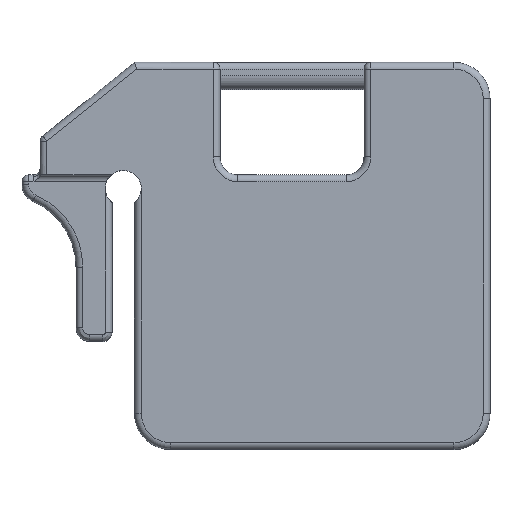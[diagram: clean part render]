
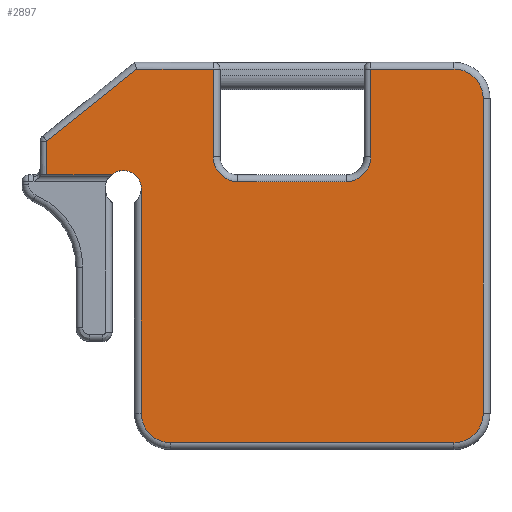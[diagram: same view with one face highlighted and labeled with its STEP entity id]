
A CAD part, top view. The second image highlights one B-rep face of the part: STEP entity #2897.
In plain terms, the highlighted planar face has unit normal (0, 0, 1).
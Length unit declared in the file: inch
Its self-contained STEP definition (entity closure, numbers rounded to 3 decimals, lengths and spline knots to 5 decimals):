
#414=CARTESIAN_POINT('',(3.3125,-3.5,1.375));
#1028=DIRECTION('',(0.,-1.,0.));
#1029=VECTOR('',#1028,0.93194);
#1030=CARTESIAN_POINT('',(0.6875,-2.19306,1.375));
#1031=LINE('',#1030,#1029);
#1032=DIRECTION('',(-0.78,-0.625,0.));
#1033=VECTOR('',#1032,3.20765);
#1034=CARTESIAN_POINT('',(3.19085,-0.1875,1.375));
#1035=LINE('',#1034,#1033);
#1036=DIRECTION('',(-1.,0.,0.));
#1037=VECTOR('',#1036,2.12165);
#1038=CARTESIAN_POINT('',(5.3125,-0.1875,1.375));
#1039=LINE('',#1038,#1037);
#1040=DIRECTION('',(0.,1.,0.));
#1041=VECTOR('',#1040,2.4375);
#1042=CARTESIAN_POINT('',(5.3125,-2.625,1.375));
#1043=LINE('',#1042,#1041);
#1044=CARTESIAN_POINT('',(6.,-2.625,1.375));
#1045=DIRECTION('',(0.,0.,-1.));
#1046=DIRECTION('',(0.,-1.,0.));
#1047=AXIS2_PLACEMENT_3D('',#1044,#1045,#1046);
#1049=DIRECTION('',(-1.,0.,0.));
#1050=VECTOR('',#1049,3.);
#1051=CARTESIAN_POINT('',(9.,-3.3125,1.375));
#1052=LINE('',#1051,#1050);
#1053=CARTESIAN_POINT('',(9.,-2.625,1.375));
#1054=DIRECTION('',(0.,0.,-1.));
#1055=DIRECTION('',(1.,0.,0.));
#1056=AXIS2_PLACEMENT_3D('',#1053,#1054,#1055);
#1058=DIRECTION('',(0.,-1.,0.));
#1059=VECTOR('',#1058,2.4375);
#1060=CARTESIAN_POINT('',(9.6875,-0.1875,1.375));
#1061=LINE('',#1060,#1059);
#1062=DIRECTION('',(-1.,0.,0.));
#1063=VECTOR('',#1062,2.3125);
#1064=CARTESIAN_POINT('',(12.,-0.1875,1.375));
#1065=LINE('',#1064,#1063);
#1066=CARTESIAN_POINT('',(12.,-1.,1.375));
#1067=DIRECTION('',(0.,0.,1.));
#1068=DIRECTION('',(1.,0.,0.));
#1069=AXIS2_PLACEMENT_3D('',#1066,#1067,#1068);
#1071=DIRECTION('',(0.,1.,0.));
#1072=VECTOR('',#1071,8.75);
#1073=CARTESIAN_POINT('',(12.8125,-9.75,1.375));
#1074=LINE('',#1073,#1072);
#1075=CARTESIAN_POINT('',(12.,-9.75,1.375));
#1076=DIRECTION('',(0.,0.,1.));
#1077=DIRECTION('',(0.,-1.,0.));
#1078=AXIS2_PLACEMENT_3D('',#1075,#1076,#1077);
#1080=DIRECTION('',(1.,0.,0.));
#1081=VECTOR('',#1080,7.875);
#1082=CARTESIAN_POINT('',(4.125,-10.5625,1.375));
#1083=LINE('',#1082,#1081);
#1084=CARTESIAN_POINT('',(4.125,-9.75,1.375));
#1085=DIRECTION('',(0.,0.,1.));
#1086=DIRECTION('',(-1.,0.,0.));
#1087=AXIS2_PLACEMENT_3D('',#1084,#1085,#1086);
#1089=DIRECTION('',(0.,-1.,0.));
#1090=VECTOR('',#1089,6.25);
#1091=CARTESIAN_POINT('',(3.3125,-3.5,1.375));
#1092=LINE('',#1091,#1090);
#1093=CARTESIAN_POINT('',(2.8125,-3.5,1.375));
#1094=DIRECTION('',(0.,0.,-1.));
#1095=DIRECTION('',(-0.661,0.75,0.));
#1096=AXIS2_PLACEMENT_3D('',#1093,#1094,#1095);
#1098=DIRECTION('',(1.,0.,0.));
#1099=VECTOR('',#1098,1.79428);
#1100=CARTESIAN_POINT('',(0.6875,-3.125,1.375));
#1101=LINE('',#1100,#1099);
#1573=VERTEX_POINT('',#414);
#1574=CARTESIAN_POINT('',(3.3125,-9.75,1.375));
#1575=VERTEX_POINT('',#1574);
#1578=CARTESIAN_POINT('',(4.125,-10.5625,1.375));
#1579=VERTEX_POINT('',#1578);
#1582=CARTESIAN_POINT('',(12.,-10.5625,1.375));
#1583=VERTEX_POINT('',#1582);
#1586=CARTESIAN_POINT('',(12.8125,-9.75,1.375));
#1587=VERTEX_POINT('',#1586);
#1590=CARTESIAN_POINT('',(12.8125,-1.,1.375));
#1591=VERTEX_POINT('',#1590);
#1594=CARTESIAN_POINT('',(12.,-0.1875,1.375));
#1595=VERTEX_POINT('',#1594);
#1600=CARTESIAN_POINT('',(9.6875,-0.1875,1.375));
#1601=VERTEX_POINT('',#1600);
#1618=CARTESIAN_POINT('',(5.3125,-2.625,1.375));
#1619=CARTESIAN_POINT('',(5.3125,-0.1875,1.375));
#1620=VERTEX_POINT('',#1618);
#1621=VERTEX_POINT('',#1619);
#1622=CARTESIAN_POINT('',(6.,-3.3125,1.375));
#1623=VERTEX_POINT('',#1622);
#1626=CARTESIAN_POINT('',(9.,-3.3125,1.375));
#1627=VERTEX_POINT('',#1626);
#1630=CARTESIAN_POINT('',(9.6875,-2.625,1.375));
#1631=VERTEX_POINT('',#1630);
#1636=CARTESIAN_POINT('',(3.19085,-0.1875,1.375));
#1637=VERTEX_POINT('',#1636);
#1668=CARTESIAN_POINT('',(0.6875,-3.125,1.375));
#1669=CARTESIAN_POINT('',(2.48178,-3.125,1.375));
#1670=VERTEX_POINT('',#1668);
#1671=VERTEX_POINT('',#1669);
#1705=CARTESIAN_POINT('',(0.6875,-2.19306,1.375));
#1707=VERTEX_POINT('',#1705);
#2859=CARTESIAN_POINT('',(0.,0.,1.375));
#2860=DIRECTION('',(0.,0.,1.));
#2861=DIRECTION('',(1.,0.,0.));
#2862=AXIS2_PLACEMENT_3D('',#2859,#2860,#2861);
#2863=PLANE('',#2862);
#2864=ORIENTED_EDGE('',*,*,#2849,.F.);
#2865=ORIENTED_EDGE('',*,*,#2826,.F.);
#2867=ORIENTED_EDGE('',*,*,#2866,.F.);
#2869=ORIENTED_EDGE('',*,*,#2868,.F.);
#2871=ORIENTED_EDGE('',*,*,#2870,.F.);
#2873=ORIENTED_EDGE('',*,*,#2872,.F.);
#2875=ORIENTED_EDGE('',*,*,#2874,.F.);
#2877=ORIENTED_EDGE('',*,*,#2876,.F.);
#2879=ORIENTED_EDGE('',*,*,#2878,.F.);
#2881=ORIENTED_EDGE('',*,*,#2880,.F.);
#2883=ORIENTED_EDGE('',*,*,#2882,.F.);
#2885=ORIENTED_EDGE('',*,*,#2884,.F.);
#2887=ORIENTED_EDGE('',*,*,#2886,.F.);
#2889=ORIENTED_EDGE('',*,*,#2888,.F.);
#2891=ORIENTED_EDGE('',*,*,#2890,.F.);
#2892=ORIENTED_EDGE('',*,*,#2139,.F.);
#2894=ORIENTED_EDGE('',*,*,#2893,.F.);
#2895=EDGE_LOOP('',(#2864,#2865,#2867,#2869,#2871,#2873,#2875,#2877,#2879,#2881,
#2883,#2885,#2887,#2889,#2891,#2892,#2894));
#2896=FACE_OUTER_BOUND('',#2895,.F.);
#2897=ADVANCED_FACE('',(#2896),#2863,.T.);
#1048=CIRCLE('',#1047,0.6875);
#1057=CIRCLE('',#1056,0.6875);
#1070=CIRCLE('',#1069,0.8125);
#1079=CIRCLE('',#1078,0.8125);
#1088=CIRCLE('',#1087,0.8125);
#1097=CIRCLE('',#1096,0.5);
#2139=EDGE_CURVE('',#1671,#1573,#1097,.T.);
#2826=EDGE_CURVE('',#1637,#1707,#1035,.T.);
#2849=EDGE_CURVE('',#1707,#1670,#1031,.T.);
#2866=EDGE_CURVE('',#1621,#1637,#1039,.T.);
#2868=EDGE_CURVE('',#1620,#1621,#1043,.T.);
#2870=EDGE_CURVE('',#1623,#1620,#1048,.T.);
#2872=EDGE_CURVE('',#1627,#1623,#1052,.T.);
#2874=EDGE_CURVE('',#1631,#1627,#1057,.T.);
#2876=EDGE_CURVE('',#1601,#1631,#1061,.T.);
#2878=EDGE_CURVE('',#1595,#1601,#1065,.T.);
#2880=EDGE_CURVE('',#1591,#1595,#1070,.T.);
#2882=EDGE_CURVE('',#1587,#1591,#1074,.T.);
#2884=EDGE_CURVE('',#1583,#1587,#1079,.T.);
#2886=EDGE_CURVE('',#1579,#1583,#1083,.T.);
#2888=EDGE_CURVE('',#1575,#1579,#1088,.T.);
#2890=EDGE_CURVE('',#1573,#1575,#1092,.T.);
#2893=EDGE_CURVE('',#1670,#1671,#1101,.T.);
